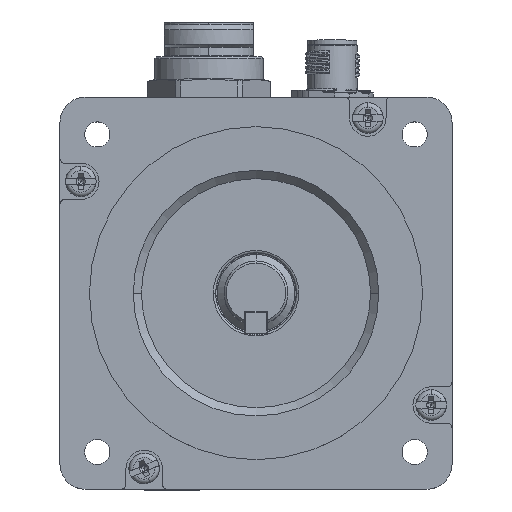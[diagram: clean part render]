
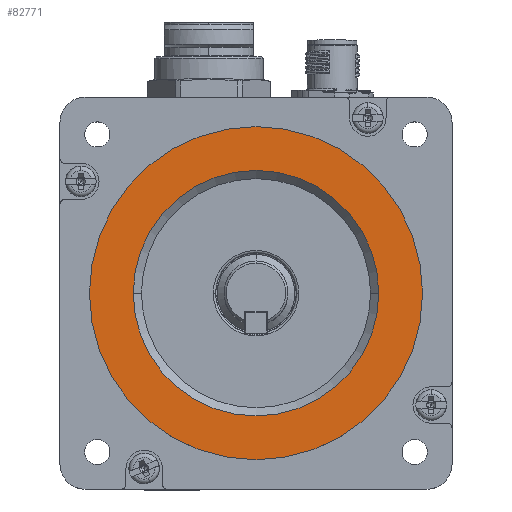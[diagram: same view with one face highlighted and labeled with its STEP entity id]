
A CAD part, top view. The second image highlights one B-rep face of the part: STEP entity #82771.
In plain terms, the highlighted planar face has unit normal (0, 0, 1).
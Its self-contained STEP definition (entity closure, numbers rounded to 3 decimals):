
#2661 = ORIENTED_EDGE ( 'NONE', *, *, #75591, .T. ) ;
#6731 = CIRCLE ( 'NONE', #24769, 26.9 ) ;
#10971 = CARTESIAN_POINT ( 'NONE',  ( 16.4, 43.354, 219.616 ) ) ;
#15802 = DIRECTION ( 'NONE',  ( 0., 0., -1. ) ) ;
#16627 = PLANE ( 'NONE',  #41486 ) ;
#21811 = EDGE_LOOP ( 'NONE', ( #2661, #61071 ) ) ;
#24769 = AXIS2_PLACEMENT_3D ( 'NONE', #30764, #15802, #62098 ) ;
#30472 = DIRECTION ( 'NONE',  ( 0., 0., 1. ) ) ;
#30732 = EDGE_LOOP ( 'NONE', ( #40161, #97098 ) ) ;
#30764 = CARTESIAN_POINT ( 'NONE',  ( 43.3, 43.354, 219.616 ) ) ;
#31525 = AXIS2_PLACEMENT_3D ( 'NONE', #60826, #30472, #83402 ) ;
#32019 = CIRCLE ( 'NONE', #89443, 26.9 ) ;
#33359 = VERTEX_POINT ( 'NONE', #10971 ) ;
#34721 = DIRECTION ( 'NONE',  ( 1., 0., 0. ) ) ;
#36029 = DIRECTION ( 'NONE',  ( 0., 0., -1. ) ) ;
#38329 = EDGE_CURVE ( 'NONE', #49088, #80732, #100546, .T. ) ;
#39051 = AXIS2_PLACEMENT_3D ( 'NONE', #90165, #89143, #34721 ) ;
#40161 = ORIENTED_EDGE ( 'NONE', *, *, #38329, .T. ) ;
#41486 = AXIS2_PLACEMENT_3D ( 'NONE', #95841, #63942, #48546 ) ;
#45567 = CARTESIAN_POINT ( 'NONE',  ( 70.2, 43.354, 219.616 ) ) ;
#46031 = FACE_OUTER_BOUND ( 'NONE', #30732, .T. ) ;
#48546 = DIRECTION ( 'NONE',  ( 1., 0., 0. ) ) ;
#48592 = CARTESIAN_POINT ( 'NONE',  ( 6.8, 43.354, 219.616 ) ) ;
#49088 = VERTEX_POINT ( 'NONE', #49863 ) ;
#49863 = CARTESIAN_POINT ( 'NONE',  ( 79.8, 43.354, 219.616 ) ) ;
#60826 = CARTESIAN_POINT ( 'NONE',  ( 43.3, 43.354, 219.616 ) ) ;
#60997 = EDGE_CURVE ( 'NONE', #80732, #49088, #88224, .T. ) ;
#61071 = ORIENTED_EDGE ( 'NONE', *, *, #100156, .T. ) ;
#62098 = DIRECTION ( 'NONE',  ( 1., 0., 0. ) ) ;
#63942 = DIRECTION ( 'NONE',  ( 0., 0., 1. ) ) ;
#66499 = VERTEX_POINT ( 'NONE', #45567 ) ;
#67786 = CARTESIAN_POINT ( 'NONE',  ( 43.3, 43.354, 219.616 ) ) ;
#75591 = EDGE_CURVE ( 'NONE', #66499, #33359, #6731, .T. ) ;
#78352 = FACE_BOUND ( 'NONE', #21811, .T. ) ;
#80732 = VERTEX_POINT ( 'NONE', #48592 ) ;
#82771 = ADVANCED_FACE ( 'NONE', ( #78352, #46031 ), #16627, .T. ) ;
#83402 = DIRECTION ( 'NONE',  ( 1., 0., 0. ) ) ;
#88224 = CIRCLE ( 'NONE', #39051, 36.5 ) ;
#89143 = DIRECTION ( 'NONE',  ( 0., 0., 1. ) ) ;
#89443 = AXIS2_PLACEMENT_3D ( 'NONE', #67786, #36029, #99239 ) ;
#90165 = CARTESIAN_POINT ( 'NONE',  ( 43.3, 43.354, 219.616 ) ) ;
#95841 = CARTESIAN_POINT ( 'NONE',  ( 5.85, 5.904, 219.616 ) ) ;
#97098 = ORIENTED_EDGE ( 'NONE', *, *, #60997, .T. ) ;
#99239 = DIRECTION ( 'NONE',  ( 1., 0., 0. ) ) ;
#100156 = EDGE_CURVE ( 'NONE', #33359, #66499, #32019, .T. ) ;
#100546 = CIRCLE ( 'NONE', #31525, 36.5 ) ;
